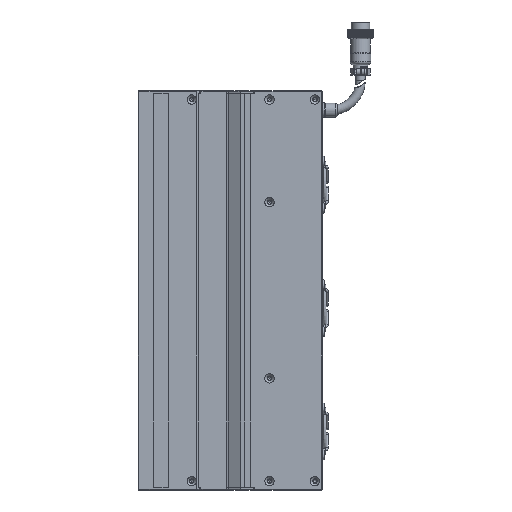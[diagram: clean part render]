
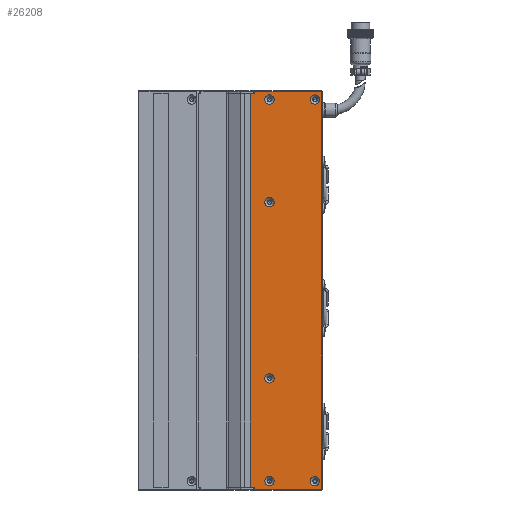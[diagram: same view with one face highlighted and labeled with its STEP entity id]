
A CAD part, left-side view. The second image highlights one B-rep face of the part: STEP entity #26208.
In plain terms, the highlighted planar face has unit normal (-1, 0, 0).
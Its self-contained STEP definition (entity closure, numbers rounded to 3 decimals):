
#1030 = VECTOR ( 'NONE', #34460, 1000. ) ;
#1972 = AXIS2_PLACEMENT_3D ( 'NONE', #14305, #117502, #13853 ) ;
#4062 = CARTESIAN_POINT ( 'NONE',  ( -24.998, -67.5, 130. ) ) ;
#4464 = ORIENTED_EDGE ( 'NONE', *, *, #81176, .T. ) ;
#4963 = ORIENTED_EDGE ( 'NONE', *, *, #65866, .T. ) ;
#6906 = EDGE_LOOP ( 'NONE', ( #44104 ) ) ;
#7026 = VERTEX_POINT ( 'NONE', #49554 ) ;
#7132 = CARTESIAN_POINT ( 'NONE',  ( -24.998, -72., 135.5 ) ) ;
#8268 = DIRECTION ( 'NONE',  ( 0., 0., 1. ) ) ;
#10027 = ORIENTED_EDGE ( 'NONE', *, *, #120164, .F. ) ;
#12798 = DIRECTION ( 'NONE',  ( 0., 1., 0. ) ) ;
#13853 = DIRECTION ( 'NONE',  ( 0., 0., -1. ) ) ;
#14305 = CARTESIAN_POINT ( 'NONE',  ( -24.998, -72.5, 134. ) ) ;
#14839 = DIRECTION ( 'NONE',  ( 0., 0., 1. ) ) ;
#16370 = FACE_BOUND ( 'NONE', #107375, .T. ) ;
#19932 = CARTESIAN_POINT ( 'NONE',  ( -24.998, -23.25, -134. ) ) ;
#20586 = EDGE_CURVE ( 'NONE', #34487, #34487, #22545, .T. ) ;
#21200 = VERTEX_POINT ( 'NONE', #87045 ) ;
#21612 = LINE ( 'NONE', #70024, #95600 ) ;
#21652 = ORIENTED_EDGE ( 'NONE', *, *, #106628, .T. ) ;
#21943 = CARTESIAN_POINT ( 'NONE',  ( -24.998, -26.5, -134. ) ) ;
#22545 = CIRCLE ( 'NONE', #51685, 3.15 ) ;
#24088 = LINE ( 'NONE', #27003, #130073 ) ;
#24901 = ORIENTED_EDGE ( 'NONE', *, *, #124375, .F. ) ;
#25021 = CARTESIAN_POINT ( 'NONE',  ( -24.998, -23.25, -134. ) ) ;
#25682 = CARTESIAN_POINT ( 'NONE',  ( -24.998, -36.5, 63.15 ) ) ;
#25992 = FACE_BOUND ( 'NONE', #73007, .T. ) ;
#26208 = ADVANCED_FACE ( 'NONE', ( #122384, #77518, #125529, #16370, #25992, #83876, #43747 ), #96003, .F. ) ;
#27003 = CARTESIAN_POINT ( 'NONE',  ( -24.998, -72., 134. ) ) ;
#27122 = CARTESIAN_POINT ( 'NONE',  ( -24.998, -72.5, -134. ) ) ;
#28228 = CIRCLE ( 'NONE', #68126, 3.15 ) ;
#33054 = VERTEX_POINT ( 'NONE', #70151 ) ;
#34460 = DIRECTION ( 'NONE',  ( 0., 1., 0. ) ) ;
#34487 = VERTEX_POINT ( 'NONE', #25682 ) ;
#35039 = CARTESIAN_POINT ( 'NONE',  ( -24.998, -36.5, 60. ) ) ;
#37758 = CARTESIAN_POINT ( 'NONE',  ( -24.998, -26.5, -127. ) ) ;
#37883 = DIRECTION ( 'NONE',  ( 0., 0., 1. ) ) ;
#39600 = CARTESIAN_POINT ( 'NONE',  ( -24.998, -36.5, 133.15 ) ) ;
#39757 = DIRECTION ( 'NONE',  ( 0., 0., 1. ) ) ;
#40811 = ORIENTED_EDGE ( 'NONE', *, *, #49348, .F. ) ;
#43092 = VERTEX_POINT ( 'NONE', #25021 ) ;
#43241 = AXIS2_PLACEMENT_3D ( 'NONE', #115152, #54674, #126357 ) ;
#43747 = FACE_OUTER_BOUND ( 'NONE', #75754, .T. ) ;
#44104 = ORIENTED_EDGE ( 'NONE', *, *, #85023, .F. ) ;
#44858 = ORIENTED_EDGE ( 'NONE', *, *, #52269, .F. ) ;
#45626 = VERTEX_POINT ( 'NONE', #127573 ) ;
#46056 = DIRECTION ( 'NONE',  ( -1., 0., 0. ) ) ;
#47750 = VERTEX_POINT ( 'NONE', #21943 ) ;
#48765 = DIRECTION ( 'NONE',  ( 0., -1., 0. ) ) ;
#49348 = EDGE_CURVE ( 'NONE', #7026, #7026, #122003, .T. ) ;
#49554 = CARTESIAN_POINT ( 'NONE',  ( -24.998, -36.5, -56.85 ) ) ;
#50170 = CARTESIAN_POINT ( 'NONE',  ( -24.998, -26.5, 135.5 ) ) ;
#50226 = DIRECTION ( 'NONE',  ( 0., -1., 0. ) ) ;
#51023 = VECTOR ( 'NONE', #48765, 1000. ) ;
#51685 = AXIS2_PLACEMENT_3D ( 'NONE', #35039, #86238, #14839 ) ;
#52269 = EDGE_CURVE ( 'NONE', #58572, #58572, #72039, .T. ) ;
#54674 = DIRECTION ( 'NONE',  ( -1., 0., 0. ) ) ;
#58572 = VERTEX_POINT ( 'NONE', #39600 ) ;
#59404 = EDGE_CURVE ( 'NONE', #45626, #105916, #67157, .T. ) ;
#62991 = CARTESIAN_POINT ( 'NONE',  ( -24.998, -26.5, -135.5 ) ) ;
#63485 = AXIS2_PLACEMENT_3D ( 'NONE', #4062, #85867, #66212 ) ;
#63806 = CARTESIAN_POINT ( 'NONE',  ( -24.998, -72.5, 135.5 ) ) ;
#63869 = CARTESIAN_POINT ( 'NONE',  ( -24.998, -67.5, -126.85 ) ) ;
#65697 = LINE ( 'NONE', #19932, #68943 ) ;
#65866 = EDGE_CURVE ( 'NONE', #125578, #92861, #83107, .T. ) ;
#66212 = DIRECTION ( 'NONE',  ( 0., 0., 1. ) ) ;
#67157 = LINE ( 'NONE', #74879, #111928 ) ;
#68001 = VERTEX_POINT ( 'NONE', #63869 ) ;
#68126 = AXIS2_PLACEMENT_3D ( 'NONE', #85482, #46056, #116846 ) ;
#68943 = VECTOR ( 'NONE', #39757, 1000. ) ;
#69211 = CIRCLE ( 'NONE', #115712, 3.15 ) ;
#69500 = CARTESIAN_POINT ( 'NONE',  ( -24.998, -67.5, -130. ) ) ;
#70024 = CARTESIAN_POINT ( 'NONE',  ( -24.998, -72.5, 134. ) ) ;
#70151 = CARTESIAN_POINT ( 'NONE',  ( -24.998, -26.5, 134. ) ) ;
#72039 = CIRCLE ( 'NONE', #43241, 3.15 ) ;
#73007 = EDGE_LOOP ( 'NONE', ( #44858 ) ) ;
#74879 = CARTESIAN_POINT ( 'NONE',  ( -24.998, -72.5, -135.5 ) ) ;
#75754 = EDGE_LOOP ( 'NONE', ( #4464, #10027, #111771, #114030, #4963, #21652, #24901, #79809 ) ) ;
#77518 = FACE_BOUND ( 'NONE', #6906, .T. ) ;
#78460 = CARTESIAN_POINT ( 'NONE',  ( -24.998, -26.5, 127. ) ) ;
#79027 = ORIENTED_EDGE ( 'NONE', *, *, #131776, .F. ) ;
#79809 = ORIENTED_EDGE ( 'NONE', *, *, #98846, .F. ) ;
#80529 = CARTESIAN_POINT ( 'NONE',  ( -24.998, -23.25, 134. ) ) ;
#81176 = EDGE_CURVE ( 'NONE', #43092, #47750, #99057, .T. ) ;
#83107 = LINE ( 'NONE', #63806, #1030 ) ;
#83450 = ORIENTED_EDGE ( 'NONE', *, *, #106675, .F. ) ;
#83876 = FACE_BOUND ( 'NONE', #97875, .T. ) ;
#84253 = EDGE_LOOP ( 'NONE', ( #83450 ) ) ;
#85023 = EDGE_CURVE ( 'NONE', #90448, #90448, #28228, .T. ) ;
#85482 = CARTESIAN_POINT ( 'NONE',  ( -24.998, -36.5, -130. ) ) ;
#85867 = DIRECTION ( 'NONE',  ( -1., 0., 0. ) ) ;
#86238 = DIRECTION ( 'NONE',  ( -1., 0., 0. ) ) ;
#87045 = CARTESIAN_POINT ( 'NONE',  ( -24.998, -67.5, 133.15 ) ) ;
#89063 = DIRECTION ( 'NONE',  ( -1., 0., 0. ) ) ;
#89544 = VECTOR ( 'NONE', #119886, 1000. ) ;
#90448 = VERTEX_POINT ( 'NONE', #101895 ) ;
#92861 = VERTEX_POINT ( 'NONE', #50170 ) ;
#92979 = ORIENTED_EDGE ( 'NONE', *, *, #20586, .F. ) ;
#95600 = VECTOR ( 'NONE', #50226, 1000. ) ;
#96003 = PLANE ( 'NONE',  #1972 ) ;
#97875 = EDGE_LOOP ( 'NONE', ( #79027 ) ) ;
#98009 = LINE ( 'NONE', #78460, #105973 ) ;
#98846 = EDGE_CURVE ( 'NONE', #43092, #126528, #65697, .T. ) ;
#99057 = LINE ( 'NONE', #27122, #51023 ) ;
#100135 = DIRECTION ( 'NONE',  ( 0., 0., 1. ) ) ;
#101895 = CARTESIAN_POINT ( 'NONE',  ( -24.998, -36.5, -126.85 ) ) ;
#105555 = LINE ( 'NONE', #37758, #89544 ) ;
#105916 = VERTEX_POINT ( 'NONE', #62991 ) ;
#105973 = VECTOR ( 'NONE', #108382, 1000. ) ;
#106628 = EDGE_CURVE ( 'NONE', #92861, #33054, #98009, .T. ) ;
#106675 = EDGE_CURVE ( 'NONE', #68001, #68001, #69211, .T. ) ;
#107053 = EDGE_CURVE ( 'NONE', #45626, #125578, #24088, .T. ) ;
#107375 = EDGE_LOOP ( 'NONE', ( #92979 ) ) ;
#108382 = DIRECTION ( 'NONE',  ( 0., 0., -1. ) ) ;
#111771 = ORIENTED_EDGE ( 'NONE', *, *, #59404, .F. ) ;
#111928 = VECTOR ( 'NONE', #12798, 1000. ) ;
#114030 = ORIENTED_EDGE ( 'NONE', *, *, #107053, .T. ) ;
#115152 = CARTESIAN_POINT ( 'NONE',  ( -24.998, -36.5, 130. ) ) ;
#115712 = AXIS2_PLACEMENT_3D ( 'NONE', #69500, #132550, #8268 ) ;
#116846 = DIRECTION ( 'NONE',  ( 0., 0., 1. ) ) ;
#117502 = DIRECTION ( 'NONE',  ( 1., 0., 0. ) ) ;
#118770 = CIRCLE ( 'NONE', #63485, 3.15 ) ;
#119097 = CARTESIAN_POINT ( 'NONE',  ( -24.998, -36.5, -60. ) ) ;
#119886 = DIRECTION ( 'NONE',  ( 0., 0., 1. ) ) ;
#120164 = EDGE_CURVE ( 'NONE', #105916, #47750, #105555, .T. ) ;
#120243 = EDGE_LOOP ( 'NONE', ( #40811 ) ) ;
#122003 = CIRCLE ( 'NONE', #132377, 3.15 ) ;
#122384 = FACE_BOUND ( 'NONE', #84253, .T. ) ;
#124375 = EDGE_CURVE ( 'NONE', #126528, #33054, #21612, .T. ) ;
#125529 = FACE_BOUND ( 'NONE', #120243, .T. ) ;
#125578 = VERTEX_POINT ( 'NONE', #7132 ) ;
#126357 = DIRECTION ( 'NONE',  ( 0., 0., 1. ) ) ;
#126528 = VERTEX_POINT ( 'NONE', #80529 ) ;
#127573 = CARTESIAN_POINT ( 'NONE',  ( -24.998, -72., -135.5 ) ) ;
#130073 = VECTOR ( 'NONE', #100135, 1000. ) ;
#131776 = EDGE_CURVE ( 'NONE', #21200, #21200, #118770, .T. ) ;
#132377 = AXIS2_PLACEMENT_3D ( 'NONE', #119097, #89063, #37883 ) ;
#132550 = DIRECTION ( 'NONE',  ( -1., 0., 0. ) ) ;
